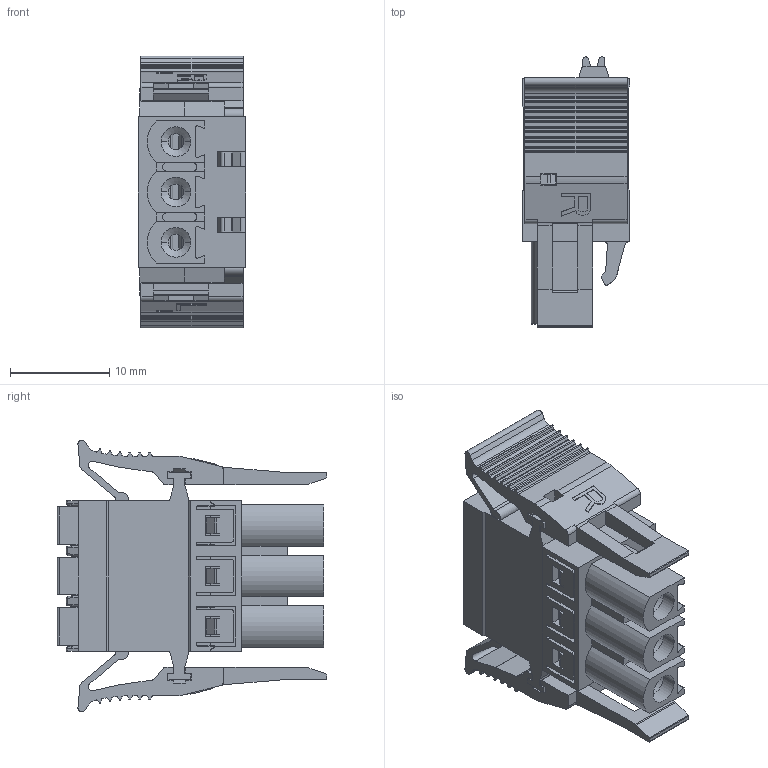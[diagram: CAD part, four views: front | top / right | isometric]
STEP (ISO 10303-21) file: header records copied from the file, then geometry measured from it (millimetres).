
FILE_DESCRIPTION((''),'2;1');
FILE_NAME('KD0350520000G','2015-08-25T',('smart'),(''),'PRO/ENGINEER BY PARAMETRIC TECHNOLOGY CORPORATION, 2009440','PRO/ENGINEER BY PARAMETRIC TECHNOLOGY CORPORATION, 2009440','');
FILE_SCHEMA(('CONFIG_CONTROL_DESIGN'));
Products named in the file (1): KD0350520000G
Bounding box: 10.9 x 27.25 x 27.44 mm (x, y, z)
Volume: 2704.8 mm3; surface area: 7478.8 mm2
Topology: 1 solids, 1 shells, 1889 faces, 5510 edges, 3543 vertices
Faces by surface type: plane 1229, cylinder 558, bspline 36, torus 30, cone 12, extrusion 12, sphere 12
Entity records: 63947 total; most frequent: CARTESIAN_POINT 13714, ORIENTED_EDGE 10996, DIRECTION 9954, EDGE_CURVE 5498, VECTOR 4154, LINE 4142, VERTEX_POINT 3543, AXIS2_PLACEMENT_3D 2900
